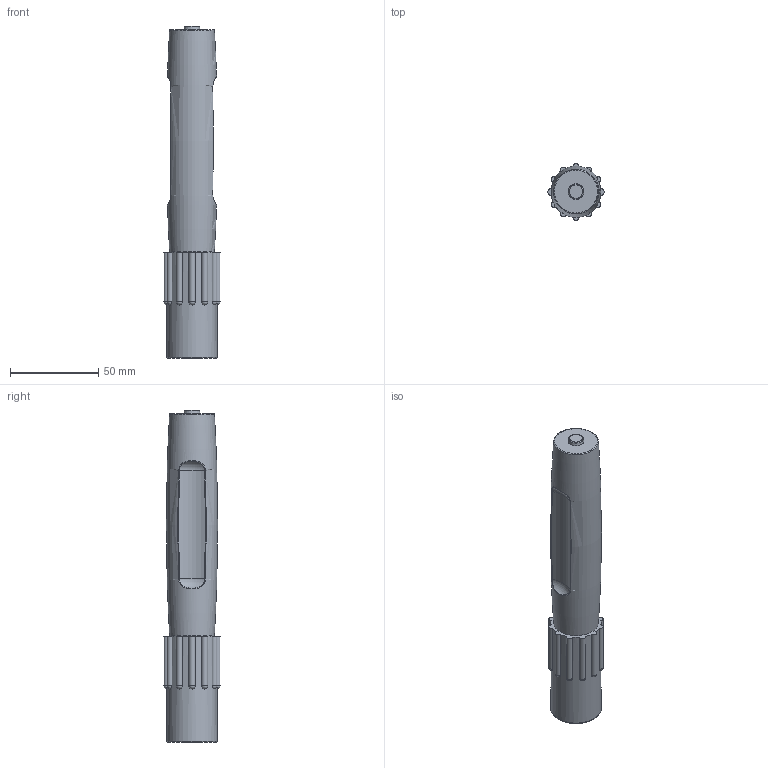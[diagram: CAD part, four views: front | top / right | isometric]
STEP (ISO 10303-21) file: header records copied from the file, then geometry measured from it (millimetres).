
FILE_DESCRIPTION(/* description */ ('Alibre Inc.'),/* implementation_level */ '2;1');
FILE_NAME(/* name */ 'export0',/* time_stamp */ '2013-07-18T12:22:58-06:00',/* author */ (''),/* organization */ (''),/* preprocessor_version */ 'ST-DEVELOPER v14',/* originating_system */ 'Alibre',/* authorisation */ '');
FILE_SCHEMA (('ALIBRE_SCHEMA','CONFIG_CONTROL_DESIGN'));
Length unit declared in the file: centimetre
Products named in the file (1): ID_1
Bounding box: 31.99 x 31.99 x 188.04 mm (x, y, z)
Volume: 110845.4 mm3; surface area: 19530.8 mm2
Topology: 2 solids, 2 shells, 49 faces, 142 edges, 87 vertices
Faces by surface type: cylinder 15, sphere 12, bspline 9, torus 6, plane 5, cone 1, revolution 1
Full cylindrical faces by diameter (mm): 28.5 x1
Entity records: 5068 total; most frequent: CARTESIAN_POINT 2533, DIRECTION 254, ORIENTED_EDGE 250, PERSISTANTTOPOLOGYATTRIBUTE 144, CONSTRAINTPAIRUV 133, EDGE_CURVE 125, REFERENCEDEPENDENTUV 101, AXIS2_PLACEMENT_3D 94
